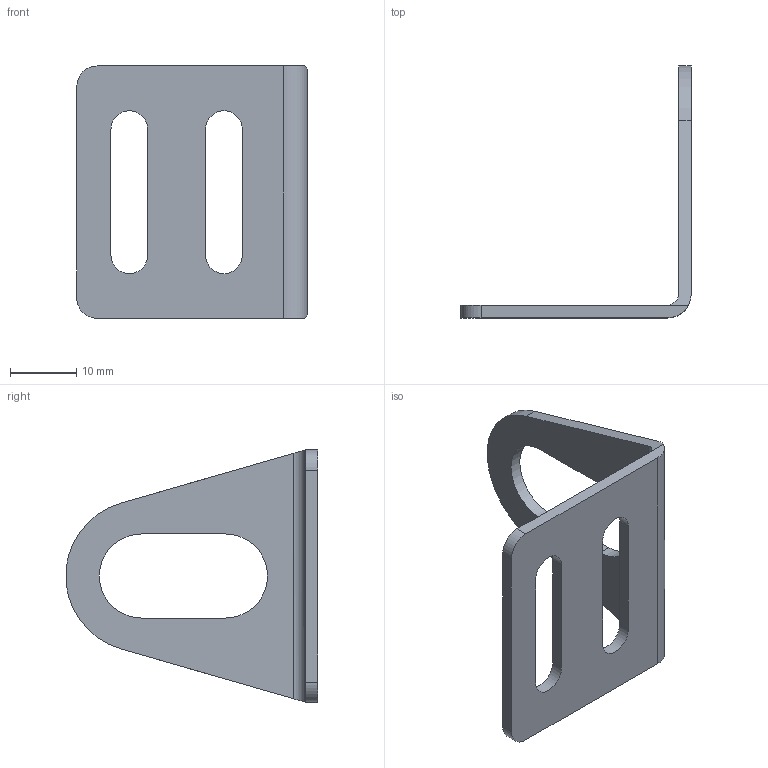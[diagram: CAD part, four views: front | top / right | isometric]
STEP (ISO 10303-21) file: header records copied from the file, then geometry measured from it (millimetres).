
FILE_DESCRIPTION (( 'STEP AP214' ), '1' );
FILE_NAME ('871A-BRS12.STEP', '2011-06-16T14:58:14', ( 'George' ), ( 'SoftNoze' ), 'SwSTEP 2.0', 'SolidWorks 2007', '' );
FILE_SCHEMA (( 'AUTOMOTIVE_DESIGN' ));
Length unit declared in the file: inch
Products named in the file (1): 871A-BRS12
Bounding box: 34.8 x 38.06 x 38.1 mm (x, y, z)
Volume: 3208.2 mm3; surface area: 4098.6 mm2
Topology: 1 solids, 1 shells, 26 faces, 70 edges, 46 vertices
Faces by surface type: plane 15, cylinder 11
Entity records: 1195 total; most frequent: CARTESIAN_POINT 155, ORIENTED_EDGE 140, DIRECTION 140, EDGE_CURVE 70, AXIS2_PLACEMENT_3D 47, VERTEX_POINT 46, VECTOR 46, LINE 46
